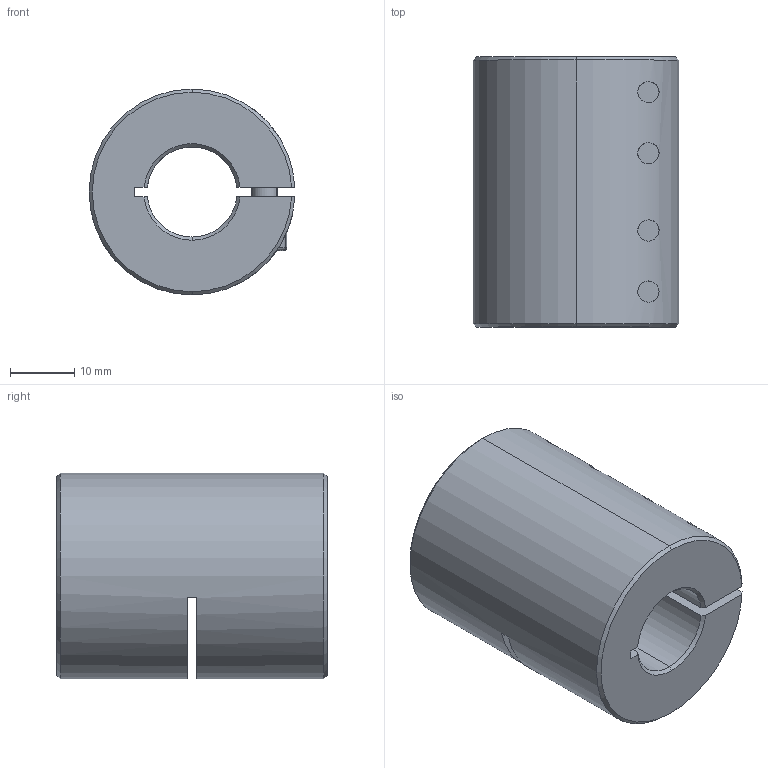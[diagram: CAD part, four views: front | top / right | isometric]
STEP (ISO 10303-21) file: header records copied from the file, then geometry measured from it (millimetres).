
FILE_DESCRIPTION (( 'STEP AP203' ), '1' );
FILE_NAME ('LL-B-D32L42-14-14.STEP', '2021-11-05T07:53:04', ( '' ), ( '' ), 'SwSTEP 2.0', 'SolidWorks 2018', '' );
FILE_SCHEMA (( 'CONFIG_CONTROL_DESIGN' ));
Length unit declared in the file: millimetre
Products named in the file (1): LL-B-D32L42-14-14
Bounding box: 31.98 x 42 x 32 mm (x, y, z)
Volume: 25283.8 mm3; surface area: 10270.1 mm2
Topology: 1 solids, 1 shells, 188 faces, 477 edges, 299 vertices
Faces by surface type: plane 86, cylinder 74, cone 20, torus 8
Entity records: 6205 total; most frequent: CARTESIAN_POINT 1529, DIRECTION 1006, ORIENTED_EDGE 938, EDGE_CURVE 469, AXIS2_PLACEMENT_3D 392, VERTEX_POINT 299, VECTOR 222, LINE 222
